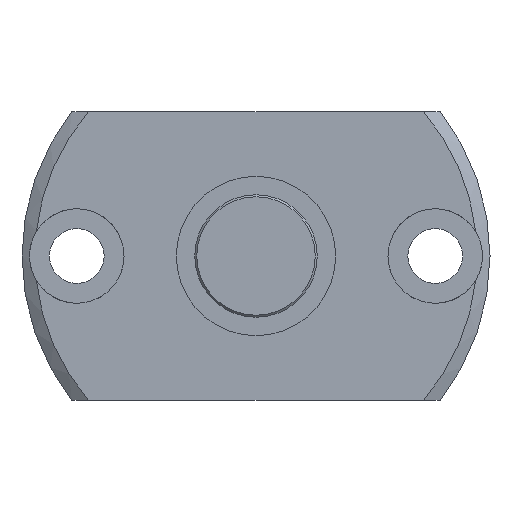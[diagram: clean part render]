
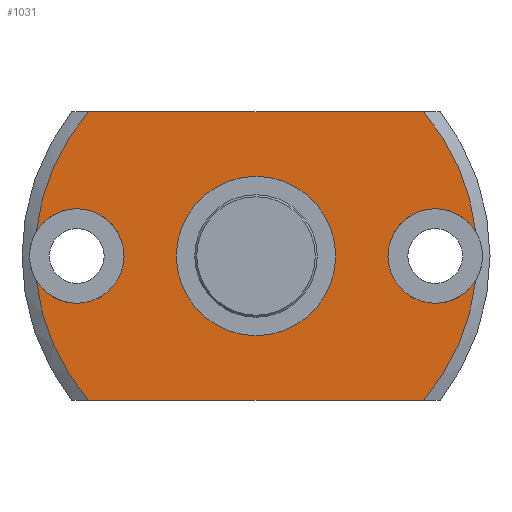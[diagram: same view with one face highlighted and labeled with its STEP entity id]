
A CAD part, left-side view. The second image highlights one B-rep face of the part: STEP entity #1031.
In plain terms, the highlighted planar face has unit normal (-1, 0, 0).
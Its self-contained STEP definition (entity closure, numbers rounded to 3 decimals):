
#38=LINE('',#1820,#88);
#39=LINE('',#1822,#89);
#88=VECTOR('',#1393,1000.);
#89=VECTOR('',#1396,1000.);
#308=ORIENTED_EDGE('',*,*,#562,.T.);
#309=ORIENTED_EDGE('',*,*,#563,.T.);
#310=ORIENTED_EDGE('',*,*,#548,.T.);
#311=ORIENTED_EDGE('',*,*,#564,.F.);
#312=ORIENTED_EDGE('',*,*,#550,.F.);
#313=ORIENTED_EDGE('',*,*,#565,.T.);
#314=ORIENTED_EDGE('',*,*,#554,.T.);
#315=ORIENTED_EDGE('',*,*,#566,.F.);
#316=ORIENTED_EDGE('',*,*,#544,.T.);
#544=EDGE_CURVE('',#670,#668,#743,.F.);
#548=EDGE_CURVE('',#669,#673,#745,.F.);
#550=EDGE_CURVE('',#674,#676,#746,.T.);
#554=EDGE_CURVE('',#675,#679,#748,.F.);
#562=EDGE_CURVE('',#687,#687,#754,.T.);
#563=EDGE_CURVE('',#668,#669,#755,.T.);
#564=EDGE_CURVE('',#676,#673,#38,.T.);
#565=EDGE_CURVE('',#674,#675,#756,.T.);
#566=EDGE_CURVE('',#670,#679,#39,.T.);
#668=VERTEX_POINT('',#1761);
#669=VERTEX_POINT('',#1762);
#670=VERTEX_POINT('',#1764);
#673=VERTEX_POINT('',#1776);
#674=VERTEX_POINT('',#1784);
#675=VERTEX_POINT('',#1785);
#676=VERTEX_POINT('',#1787);
#679=VERTEX_POINT('',#1799);
#687=VERTEX_POINT('',#1818);
#743=CIRCLE('',#1153,22.2);
#745=CIRCLE('',#1155,22.2);
#746=CIRCLE('',#1157,22.2);
#748=CIRCLE('',#1159,22.2);
#754=CIRCLE('',#1167,8.);
#755=CIRCLE('',#1168,4.75);
#756=CIRCLE('',#1169,4.75);
#816=EDGE_LOOP('',(#308));
#817=EDGE_LOOP('',(#309,#310,#311,#312,#313,#314,#315,#316));
#914=FACE_BOUND('',#816,.T.);
#915=FACE_BOUND('',#817,.T.);
#976=PLANE('',#1166);
#1031=ADVANCED_FACE('',(#914,#915),#976,.F.);
#1153=AXIS2_PLACEMENT_3D('',#1763,#1359,#1360);
#1155=AXIS2_PLACEMENT_3D('',#1777,#1363,#1364);
#1157=AXIS2_PLACEMENT_3D('',#1786,#1367,#1368);
#1159=AXIS2_PLACEMENT_3D('',#1800,#1371,#1372);
#1166=AXIS2_PLACEMENT_3D('',#1816,#1387,#1388);
#1167=AXIS2_PLACEMENT_3D('',#1817,#1389,#1390);
#1168=AXIS2_PLACEMENT_3D('',#1819,#1391,#1392);
#1169=AXIS2_PLACEMENT_3D('',#1821,#1394,#1395);
#1359=DIRECTION('',(1.,0.,0.));
#1360=DIRECTION('',(0.,0.,-1.));
#1363=DIRECTION('',(1.,0.,0.));
#1364=DIRECTION('',(0.,0.,-1.));
#1367=DIRECTION('',(1.,0.,0.));
#1368=DIRECTION('',(0.,0.,-1.));
#1371=DIRECTION('',(1.,0.,0.));
#1372=DIRECTION('',(0.,0.,-1.));
#1387=DIRECTION('',(1.,0.,0.));
#1388=DIRECTION('',(0.,0.,-1.));
#1389=DIRECTION('',(1.,0.,0.));
#1390=DIRECTION('',(0.,0.,-1.));
#1391=DIRECTION('',(1.,0.,0.));
#1392=DIRECTION('',(0.,0.,-1.));
#1393=DIRECTION('',(0.,-1.,0.));
#1394=DIRECTION('',(1.,0.,0.));
#1395=DIRECTION('',(0.,0.,-1.));
#1396=DIRECTION('',(0.,1.,0.));
#1761=CARTESIAN_POINT('',(0.,-22.063,-2.46));
#1762=CARTESIAN_POINT('',(0.,-22.063,2.46));
#1763=CARTESIAN_POINT('',(0.,0.,0.));
#1764=CARTESIAN_POINT('',(0.,-16.81,-14.5));
#1776=CARTESIAN_POINT('',(0.,-16.81,14.5));
#1777=CARTESIAN_POINT('',(0.,0.,0.));
#1784=CARTESIAN_POINT('',(0.,22.063,2.46));
#1785=CARTESIAN_POINT('',(0.,22.063,-2.46));
#1786=CARTESIAN_POINT('',(0.,0.,0.));
#1787=CARTESIAN_POINT('',(0.,16.81,14.5));
#1799=CARTESIAN_POINT('',(0.,16.81,-14.5));
#1800=CARTESIAN_POINT('',(0.,0.,0.));
#1816=CARTESIAN_POINT('',(0.,0.,0.));
#1817=CARTESIAN_POINT('',(0.,0.,0.));
#1818=CARTESIAN_POINT('',(0.,0.,-8.));
#1819=CARTESIAN_POINT('',(0.,-18.,0.));
#1820=CARTESIAN_POINT('',(0.,18.493,14.5));
#1821=CARTESIAN_POINT('',(0.,18.,0.));
#1822=CARTESIAN_POINT('',(0.,-18.493,-14.5));
